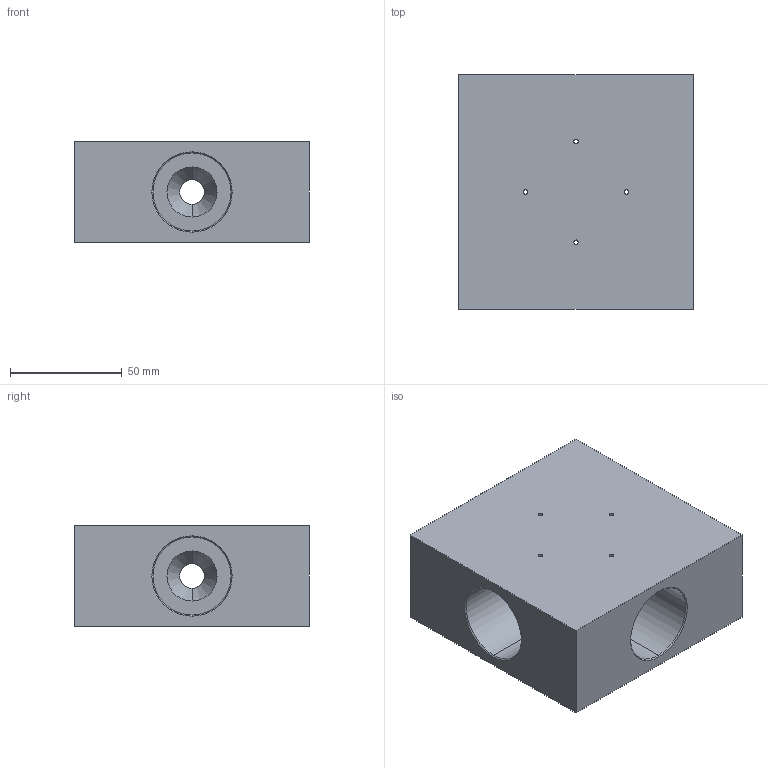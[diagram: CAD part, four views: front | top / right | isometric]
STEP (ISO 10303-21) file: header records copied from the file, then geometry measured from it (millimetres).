
FILE_DESCRIPTION (( 'STEP AP203' ), '1' );
FILE_NAME ('FT30CS16.STEP', '2026-06-26T00:49:43', ( 'USER' ), ( '' ), 'SwSTEP 2.0', 'SolidWorks 2023', '' );
FILE_SCHEMA (( 'CONFIG_CONTROL_DESIGN' ));
Length unit declared in the file: millimetre
Products named in the file (1): FT30CS16
Bounding box: 105 x 105 x 45 mm (x, y, z)
Volume: 356616.7 mm3; surface area: 57265.5 mm2
Topology: 1 solids, 1 shells, 58 faces, 152 edges, 90 vertices
Faces by surface type: cylinder 32, cone 16, plane 10
Entity records: 2097 total; most frequent: CARTESIAN_POINT 577, ORIENTED_EDGE 304, DIRECTION 298, EDGE_CURVE 152, AXIS2_PLACEMENT_3D 115, VERTEX_POINT 90, EDGE_LOOP 74, LINE 68
